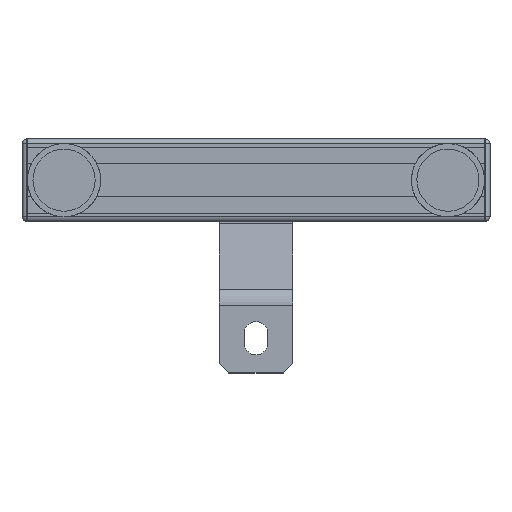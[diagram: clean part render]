
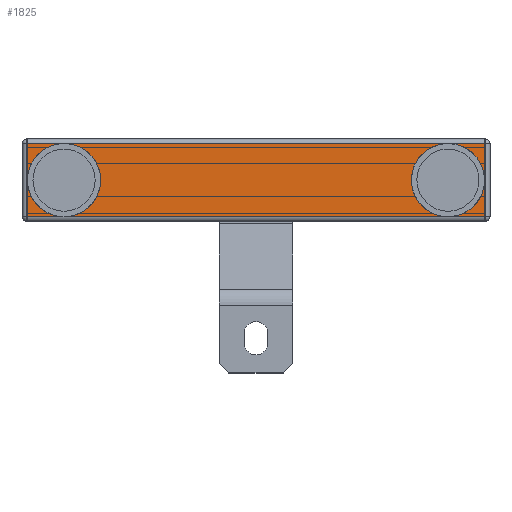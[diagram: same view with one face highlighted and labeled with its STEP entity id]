
A CAD part, front view. The second image highlights one B-rep face of the part: STEP entity #1825.
In plain terms, the highlighted planar face has unit normal (0, -1, 0).
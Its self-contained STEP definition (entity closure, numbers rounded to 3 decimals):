
#46 = AXIS2_PLACEMENT_3D ( 'NONE', #4501, #1202, #6672 ) ;
#127 = DIRECTION ( 'NONE',  ( -1., 0., 0. ) ) ;
#128 = ORIENTED_EDGE ( 'NONE', *, *, #5787, .T. ) ;
#162 = CARTESIAN_POINT ( 'NONE',  ( -125., -19., 0. ) ) ;
#249 = EDGE_CURVE ( 'NONE', #7302, #4737, #1836, .T. ) ;
#271 = CARTESIAN_POINT ( 'NONE',  ( 105., -19., 0. ) ) ;
#556 = ORIENTED_EDGE ( 'NONE', *, *, #4179, .F. ) ;
#676 = LINE ( 'NONE', #5846, #6998 ) ;
#689 = EDGE_CURVE ( 'NONE', #3505, #3505, #1892, .T. ) ;
#1036 = LINE ( 'NONE', #5356, #6078 ) ;
#1150 = DIRECTION ( 'NONE',  ( 0., 0., 1. ) ) ;
#1202 = DIRECTION ( 'NONE',  ( 0., 1., 0. ) ) ;
#1459 = ORIENTED_EDGE ( 'NONE', *, *, #4852, .T. ) ;
#1586 = AXIS2_PLACEMENT_3D ( 'NONE', #4769, #4924, #8513 ) ;
#1818 = DIRECTION ( 'NONE',  ( 0., 0., -1. ) ) ;
#1825 = ADVANCED_FACE ( 'NONE', ( #3384, #2684, #2736 ), #9129, .F. ) ;
#1836 = LINE ( 'NONE', #162, #3982 ) ;
#1892 = CIRCLE ( 'NONE', #46, 3.4 ) ;
#2228 = ORIENTED_EDGE ( 'NONE', *, *, #6018, .F. ) ;
#2477 = CARTESIAN_POINT ( 'NONE',  ( -125., -19., 20. ) ) ;
#2551 = DIRECTION ( 'NONE',  ( -1., 0., 0. ) ) ;
#2684 = FACE_BOUND ( 'NONE', #7587, .T. ) ;
#2736 = FACE_OUTER_BOUND ( 'NONE', #5722, .T. ) ;
#3229 = DIRECTION ( 'NONE',  ( 0., 1., 0. ) ) ;
#3384 = FACE_BOUND ( 'NONE', #4002, .T. ) ;
#3468 = VECTOR ( 'NONE', #1818, 1000. ) ;
#3505 = VERTEX_POINT ( 'NONE', #8534 ) ;
#3928 = LINE ( 'NONE', #8358, #3468 ) ;
#3982 = VECTOR ( 'NONE', #5215, 1000. ) ;
#4002 = EDGE_LOOP ( 'NONE', ( #1459 ) ) ;
#4179 = EDGE_CURVE ( 'NONE', #8235, #8159, #3928, .T. ) ;
#4501 = CARTESIAN_POINT ( 'NONE',  ( -105., -19., 0. ) ) ;
#4677 = CARTESIAN_POINT ( 'NONE',  ( 125., -19., -20. ) ) ;
#4737 = VERTEX_POINT ( 'NONE', #5817 ) ;
#4769 = CARTESIAN_POINT ( 'NONE',  ( 125., -19., 0. ) ) ;
#4852 = EDGE_CURVE ( 'NONE', #9338, #9338, #9006, .T. ) ;
#4924 = DIRECTION ( 'NONE',  ( 0., 1., 0. ) ) ;
#5215 = DIRECTION ( 'NONE',  ( 0., 0., -1. ) ) ;
#5356 = CARTESIAN_POINT ( 'NONE',  ( 125., -19., -20. ) ) ;
#5722 = EDGE_LOOP ( 'NONE', ( #6547, #2228, #556, #128 ) ) ;
#5743 = CARTESIAN_POINT ( 'NONE',  ( 105., -19., 3.4 ) ) ;
#5787 = EDGE_CURVE ( 'NONE', #8235, #7302, #676, .T. ) ;
#5817 = CARTESIAN_POINT ( 'NONE',  ( -125., -19., -20. ) ) ;
#5846 = CARTESIAN_POINT ( 'NONE',  ( 125., -19., 20. ) ) ;
#6018 = EDGE_CURVE ( 'NONE', #8159, #4737, #1036, .T. ) ;
#6078 = VECTOR ( 'NONE', #2551, 1000. ) ;
#6547 = ORIENTED_EDGE ( 'NONE', *, *, #249, .T. ) ;
#6672 = DIRECTION ( 'NONE',  ( 0., 0., 1. ) ) ;
#6998 = VECTOR ( 'NONE', #127, 1000. ) ;
#7302 = VERTEX_POINT ( 'NONE', #2477 ) ;
#7346 = AXIS2_PLACEMENT_3D ( 'NONE', #271, #3229, #1150 ) ;
#7587 = EDGE_LOOP ( 'NONE', ( #9248 ) ) ;
#8159 = VERTEX_POINT ( 'NONE', #4677 ) ;
#8235 = VERTEX_POINT ( 'NONE', #9274 ) ;
#8358 = CARTESIAN_POINT ( 'NONE',  ( 125., -19., 20. ) ) ;
#8513 = DIRECTION ( 'NONE',  ( 0., 0., 1. ) ) ;
#8534 = CARTESIAN_POINT ( 'NONE',  ( -105., -19., 3.4 ) ) ;
#9006 = CIRCLE ( 'NONE', #7346, 3.4 ) ;
#9129 = PLANE ( 'NONE',  #1586 ) ;
#9248 = ORIENTED_EDGE ( 'NONE', *, *, #689, .T. ) ;
#9274 = CARTESIAN_POINT ( 'NONE',  ( 125., -19., 20. ) ) ;
#9338 = VERTEX_POINT ( 'NONE', #5743 ) ;
